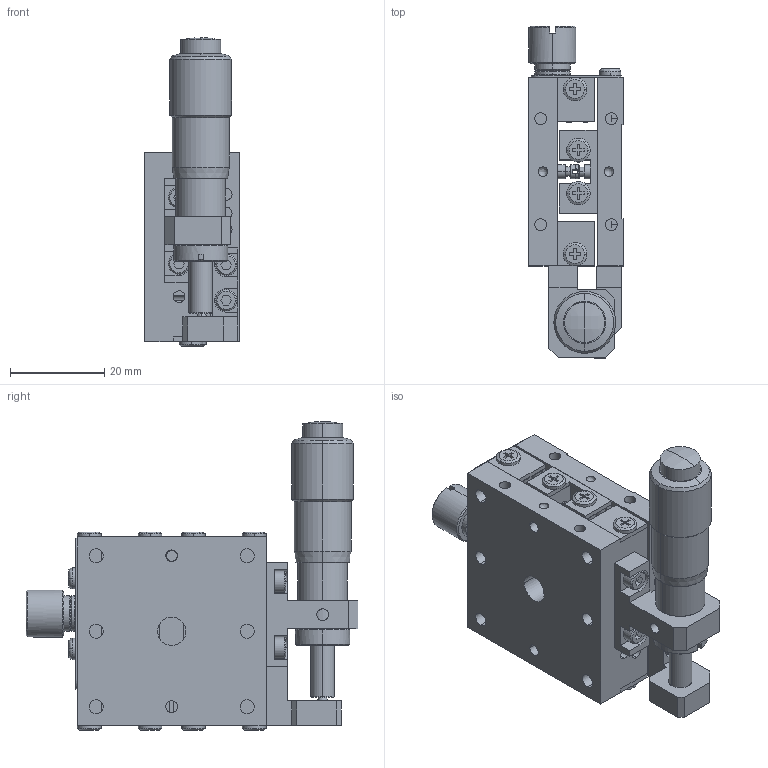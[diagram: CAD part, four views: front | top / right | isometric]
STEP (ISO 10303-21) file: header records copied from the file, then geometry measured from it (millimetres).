
FILE_DESCRIPTION (( 'STEP AP214' ), '1' );
FILE_NAME ('PBL-441SZ.STEP', '2018-07-24T07:17:54', ( '微软用户' ), ( '微软中国' ), 'SwSTEP 2.0', 'SolidWorks 2015', '' );
FILE_SCHEMA (( 'AUTOMOTIVE_DESIGN' ));
Length unit declared in the file: millimetre
Products named in the file (43): D2-38_3; CM25-5B_1; D2-38_2; CM25-5B; D3-5-M25_1; D2-38_1; M4-D10-5; D3-5-M25; D2-38; D4-8-1; NUT-13; PBL-442-01; CM25-3_1; MM-13; CM25-3; M25-6_3; PBL-441SZ; SUOJINPIAN-40; M25-6_2; PBL-442-11_1; M25-6_1; PBL-442-11; M25-6; PBL-442-10_3; D2; PBL-442-10_2; PHL-66-04; PBL-442-10_1; PHL-66-03; PBL-442-10; PBL-441; D2-38_7; CM25-5B_7; D2-38_6; CM25-5B_6; 2-54-38; CM25-5B_5; D2-38_5; CM25-5B_4; D2-38_4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
Assembly tree (42 placements, depth 3):
  PBL-441SZ
    PBL-441
      PBL-442-01
      D2-38
      D2-38_1
      D2-38_2
      D2-38_3
      PBL-442-03
      D2-38_4
      D2-38_5
      2-54-38
      D2-38_6
      D2-38_7
      PBL-442-10
      PBL-442-10_1
      PBL-442-10_2
      PBL-442-10_3
      PBL-442-11
      PBL-442-11_1
      SUOJINPIAN-40
      CM25-3
      CM25-3_1
      D4-8-1
      M4-D10-5
      CM25-5B
      CM25-5B_1
      CM25-5B_2
      CM25-5B_3
      CM25-5B_4
      CM25-5B_5
      CM25-5B_6
      CM25-5B_7
    PHL-66-03
    PHL-66-04
    D2
    M25-6
    M25-6_1
    M25-6_2
    M25-6_3
    MM-13
    NUT-13
    D3-5-M25
    D3-5-M25_1
Bounding box: 20 x 70.4 x 65.44 mm (x, y, z)
Volume: 33801.8 mm3; surface area: 28893.6 mm2
Topology: 42 solids, 42 shells, 920 faces, 2281 edges, 1490 vertices
Faces by surface type: plane 455, cylinder 359, cone 94, bspline 12
Entity records: 32917 total; most frequent: CARTESIAN_POINT 6074, DIRECTION 4908, ORIENTED_EDGE 4522, EDGE_CURVE 2261, AXIS2_PLACEMENT_3D 1814, VERTEX_POINT 1482, LINE 1280, VECTOR 1280
